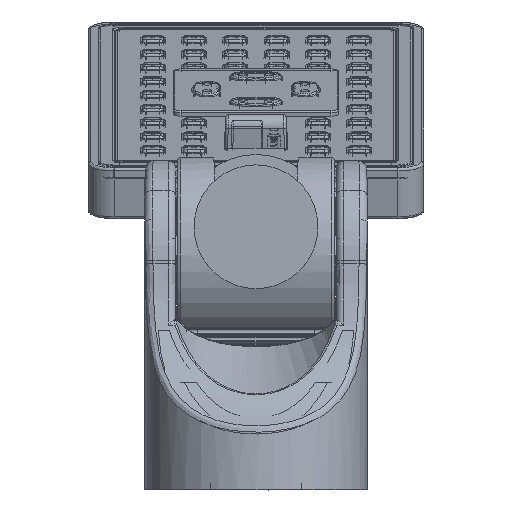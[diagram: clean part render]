
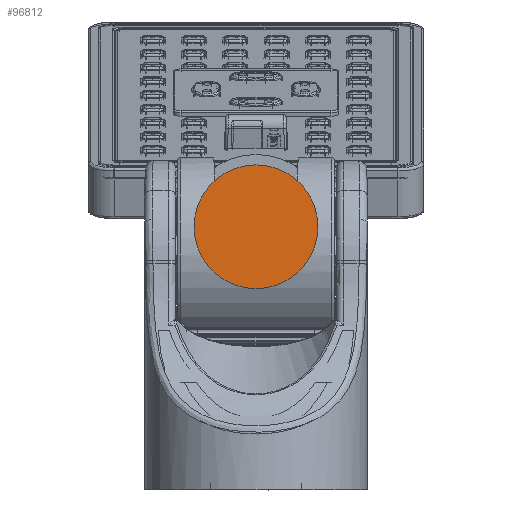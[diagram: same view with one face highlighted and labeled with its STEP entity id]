
A CAD part, front view. The second image highlights one B-rep face of the part: STEP entity #96812.
In plain terms, the highlighted planar face has unit normal (0, -1, 0).
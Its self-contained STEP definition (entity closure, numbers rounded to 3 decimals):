
#1926=PLANE('',#102880);
#18439=CIRCLE('',#102879,12.);
#26274=FACE_OUTER_BOUND('',#31869,.T.);
#31869=EDGE_LOOP('',(#63938));
#39000=VERTEX_POINT('',#153281);
#48344=EDGE_CURVE('',#39000,#39000,#18439,.T.);
#63938=ORIENTED_EDGE('',*,*,#48344,.F.);
#96812=ADVANCED_FACE('',(#26274),#1926,.F.);
#102879=AXIS2_PLACEMENT_3D('',#153282,#115680,#115681);
#102880=AXIS2_PLACEMENT_3D('',#153284,#115683,#115684);
#115680=DIRECTION('center_axis',(0.,1.,0.));
#115681=DIRECTION('ref_axis',(-1.,0.,0.));
#115683=DIRECTION('center_axis',(0.,1.,0.));
#115684=DIRECTION('ref_axis',(1.,0.,0.));
#153281=CARTESIAN_POINT('',(12.,-349.,-39.7));
#153282=CARTESIAN_POINT('Origin',(0.,-349.,-39.7));
#153284=CARTESIAN_POINT('Origin',(0.,-349.,-39.7));
